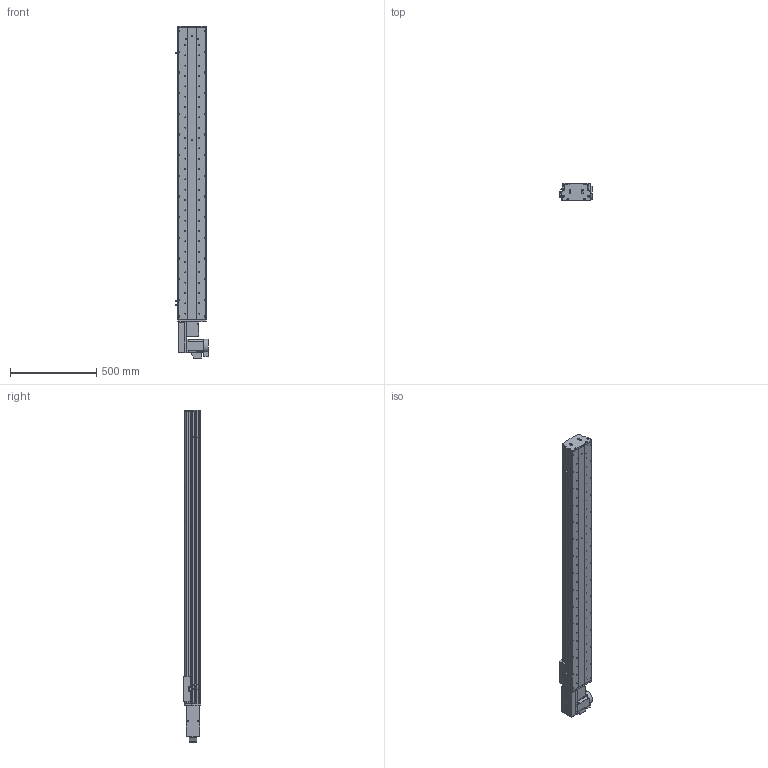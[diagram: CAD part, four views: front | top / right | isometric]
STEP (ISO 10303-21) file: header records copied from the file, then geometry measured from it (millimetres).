
FILE_DESCRIPTION (( 'STEP AP214' ), '1' );
FILE_NAME ('KSD165B-S1450-MLB-CM.STEP', '2017-10-16T06:33:26', ( '微软用户' ), ( '微软中国' ), 'SwSTEP 2.0', 'SolidWorks 2014', '' );
FILE_SCHEMA (( 'AUTOMOTIVE_DESIGN' ));
Length unit declared in the file: millimetre
Products named in the file (17): KSD165耀郪-ヶ傷啣1-肮祭湍; KSD165模组-后端板1-同步带; KSD165模组-同步带滑动座-最新版; KSD165B-S1450-MLB-CM; HTPA26S5M250-A-H8 750W萇儂蚚; HTPA26S5M250-A-H8 400W萇儂蚚 ; 130宽模组马达安装板连板左右折同步带; 130宽模组保护罩上下左右折-同步带; 165宽马达安装板同步带左-改; KSD165模组-同步带防尘盖1-1450行程; KSD165模组同步带底板-1450行程; 拸秶雄ん750W侜督萇儂; U倰嫖萇假蚾璃; U倰嫖萇EEㄜSX672; 覜茼え68遵圉猾敕; KSD165模组-同步带-防撞垫2; KSD165模组同步带-防撞垫1
Assembly tree (20 placements, depth 2):
  KSD165B-S1450-MLB-CM
    KSD165模组-同步带滑动座-最新版
    KSD165模组-后端板1-同步带
    KSD165耀郪-ヶ傷啣1-肮祭湍
    KSD165模组同步带-防撞垫1
    KSD165模组-同步带-防撞垫2
    覜茼え68遵圉猾敕
    U倰嫖萇EEㄜSX672  x3
    U倰嫖萇假蚾璃  x3
    拸秶雄ん750W侜督萇儂
    KSD165模组同步带底板-1450行程
    KSD165模组-同步带防尘盖1-1450行程
    165宽马达安装板同步带左-改
    130宽模组保护罩上下左右折-同步带
    130宽模组马达安装板连板左右折同步带
    HTPA26S5M250-A-H8 400W萇儂蚚 
    HTPA26S5M250-A-H8 750W萇儂蚚
Bounding box: 191.2 x 104 x 1928 mm (x, y, z)
Volume: 9945336.5 mm3; surface area: 2320771.2 mm2
Topology: 21 solids, 22 shells, 2047 faces, 5790 edges, 3784 vertices
Faces by surface type: cylinder 1337, plane 598, cone 112
Entity records: 67232 total; most frequent: CARTESIAN_POINT 13794, DIRECTION 10982, ORIENTED_EDGE 10240, EDGE_CURVE 5120, AXIS2_PLACEMENT_3D 4322, VERTEX_POINT 3376, CIRCLE 2472, LINE 2338
